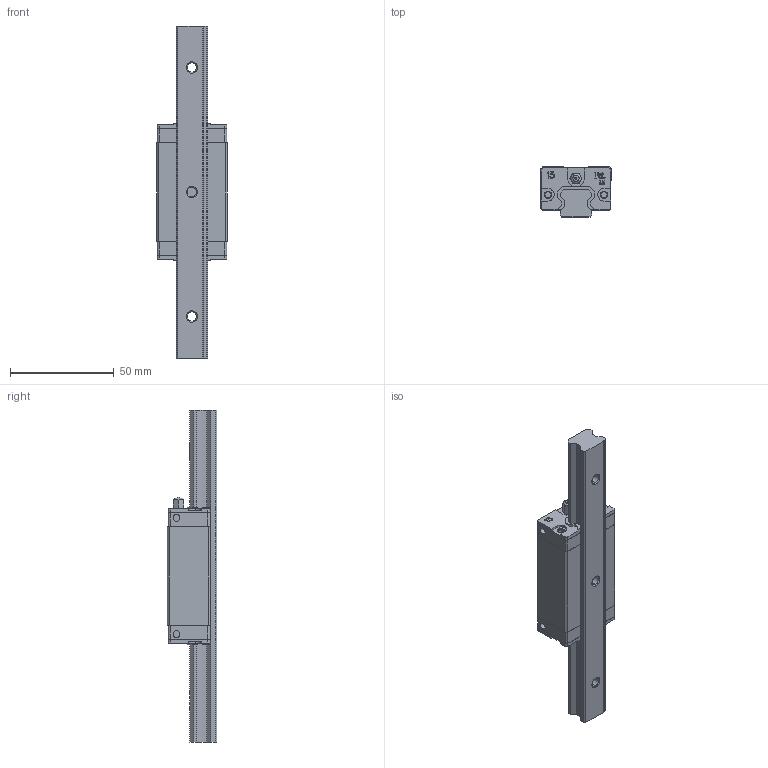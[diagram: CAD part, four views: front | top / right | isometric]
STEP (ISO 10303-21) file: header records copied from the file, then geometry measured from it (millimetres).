
FILE_DESCRIPTION (( 'STEP AP203' ), '1' );
FILE_NAME ('BGCS15BL.STEP', '2025-10-20T06:13:26', ( '' ), ( '' ), 'SwSTEP 2.0', 'SolidWorks 2020', '' );
FILE_SCHEMA (( 'CONFIG_CONTROL_DESIGN' ));
Length unit declared in the file: millimetre
Products named in the file (5): BGXS15BL; NGS02; BG15端防塵; BGR15-L160; BGCS15BL
Assembly tree (5 placements, depth 2):
  BGCS15BL
    BGR15-L160
    BGXS15BL
    BG15端防塵  x2
    NGS02
Bounding box: 33.95 x 24 x 160 mm (x, y, z)
Volume: 61424.4 mm3; surface area: 25496.9 mm2
Topology: 7 solids, 7 shells, 704 faces, 1896 edges, 1253 vertices
Faces by surface type: plane 525, cylinder 121, cone 38, bspline 18, torus 2
Entity records: 15791 total; most frequent: CARTESIAN_POINT 3203, ORIENTED_EDGE 2504, DIRECTION 2450, EDGE_CURVE 1252, VECTOR 962, LINE 962, VERTEX_POINT 825, AXIS2_PLACEMENT_3D 744
